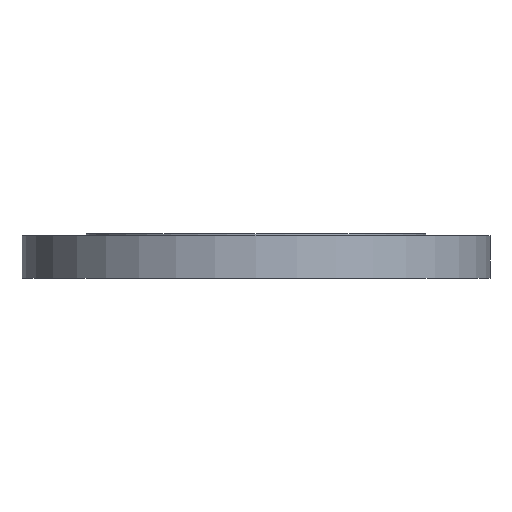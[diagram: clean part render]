
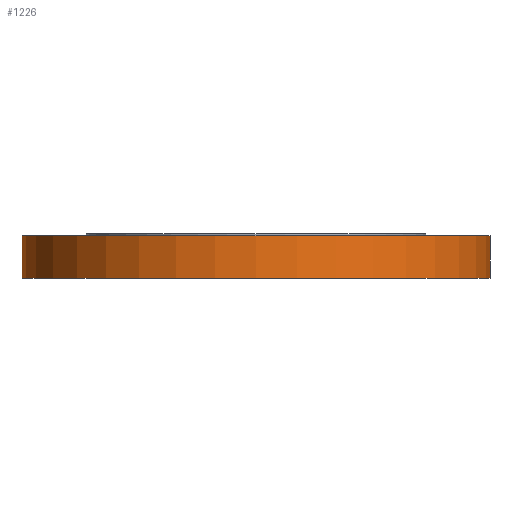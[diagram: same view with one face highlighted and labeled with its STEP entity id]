
A CAD part, front view. The second image highlights one B-rep face of the part: STEP entity #1226.
In plain terms, the highlighted cylindrical face has radius 377.5 mm (diameter 755 mm), a partial arc.
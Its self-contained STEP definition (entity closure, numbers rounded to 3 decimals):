
#19 = VECTOR ( 'NONE', #1835, 1000. ) ;
#405 = CARTESIAN_POINT ( 'NONE',  ( 0., 0., -150. ) ) ;
#425 = DIRECTION ( 'NONE',  ( 0., 0., -1. ) ) ;
#444 = CARTESIAN_POINT ( 'NONE',  ( 377.5, 0., -150. ) ) ;
#500 = CARTESIAN_POINT ( 'NONE',  ( 377.5, 0., -3. ) ) ;
#660 = DIRECTION ( 'NONE',  ( -1., 0., 0. ) ) ;
#672 = EDGE_LOOP ( 'NONE', ( #1664, #1666, #1668, #1669 ) ) ;
#803 = CARTESIAN_POINT ( 'NONE',  ( -377.5, 0., -72. ) ) ;
#966 = LINE ( 'NONE', #1488, #19 ) ;
#1005 = CIRCLE ( 'NONE', #1613, 377.5 ) ;
#1132 = VERTEX_POINT ( 'NONE', #803 ) ;
#1135 = VERTEX_POINT ( 'NONE', #1763 ) ;
#1148 = DIRECTION ( 'NONE',  ( 0., 0., 1. ) ) ;
#1171 = DIRECTION ( 'NONE',  ( -1., 0., 0. ) ) ;
#1182 = DIRECTION ( 'NONE',  ( 0., 0., 1. ) ) ;
#1226 = ADVANCED_FACE ( 'NONE', ( #1282 ), #1703, .T. ) ;
#1282 = FACE_OUTER_BOUND ( 'NONE', #672, .T. ) ;
#1319 = VERTEX_POINT ( 'NONE', #1540 ) ;
#1345 = EDGE_CURVE ( 'NONE', #1319, #1426, #1717, .T. ) ;
#1418 = CARTESIAN_POINT ( 'NONE',  ( 0., 0., -72. ) ) ;
#1426 = VERTEX_POINT ( 'NONE', #500 ) ;
#1488 = CARTESIAN_POINT ( 'NONE',  ( -377.5, 0., -150. ) ) ;
#1540 = CARTESIAN_POINT ( 'NONE',  ( 377.5, 0., -72. ) ) ;
#1551 = AXIS2_PLACEMENT_3D ( 'NONE', #405, #1148, #1616 ) ;
#1557 = AXIS2_PLACEMENT_3D ( 'NONE', #1418, #1811, #660 ) ;
#1560 = CIRCLE ( 'NONE', #1557, 377.5 ) ;
#1613 = AXIS2_PLACEMENT_3D ( 'NONE', #1708, #425, #1171 ) ;
#1615 = VECTOR ( 'NONE', #1182, 1000. ) ;
#1616 = DIRECTION ( 'NONE',  ( 1., 0., 0. ) ) ;
#1658 = EDGE_CURVE ( 'NONE', #1426, #1135, #1005, .T. ) ;
#1664 = ORIENTED_EDGE ( 'NONE', *, *, #1817, .F. ) ;
#1666 = ORIENTED_EDGE ( 'NONE', *, *, #1677, .F. ) ;
#1668 = ORIENTED_EDGE ( 'NONE', *, *, #1345, .T. ) ;
#1669 = ORIENTED_EDGE ( 'NONE', *, *, #1658, .T. ) ;
#1677 = EDGE_CURVE ( 'NONE', #1319, #1132, #1560, .T. ) ;
#1703 = CYLINDRICAL_SURFACE ( 'NONE', #1551, 377.5 ) ;
#1708 = CARTESIAN_POINT ( 'NONE',  ( 0., 0., -3. ) ) ;
#1717 = LINE ( 'NONE', #444, #1615 ) ;
#1763 = CARTESIAN_POINT ( 'NONE',  ( -377.5, 0., -3. ) ) ;
#1811 = DIRECTION ( 'NONE',  ( 0., 0., -1. ) ) ;
#1817 = EDGE_CURVE ( 'NONE', #1132, #1135, #966, .T. ) ;
#1835 = DIRECTION ( 'NONE',  ( 0., 0., 1. ) ) ;
